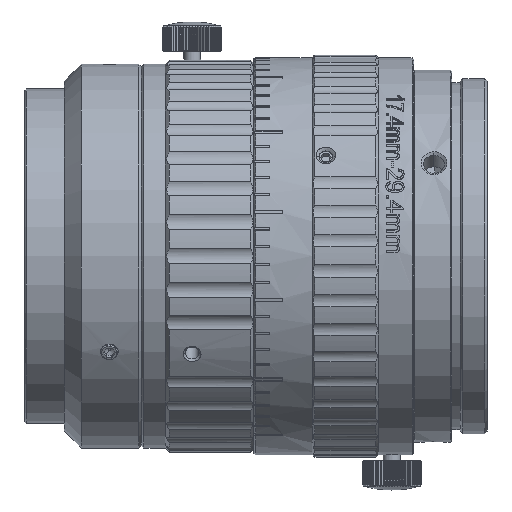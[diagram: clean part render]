
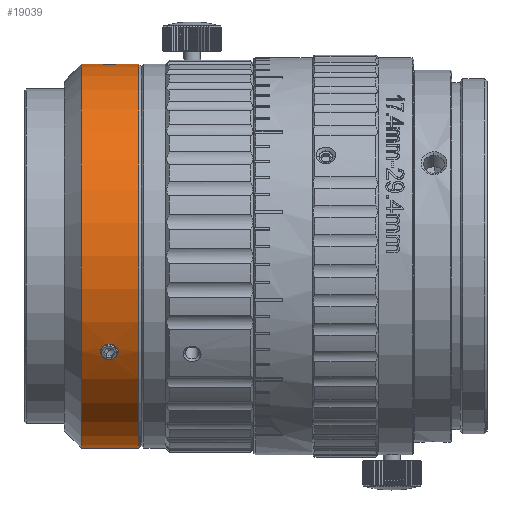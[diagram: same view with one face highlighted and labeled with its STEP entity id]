
A CAD part, top view. The second image highlights one B-rep face of the part: STEP entity #19039.
In plain terms, the highlighted cylindrical face has radius 22.7 mm (diameter 45.4 mm), a partial arc.
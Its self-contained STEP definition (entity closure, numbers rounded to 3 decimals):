
#18450=CARTESIAN_POINT('',(-19.6,0.,0.));
#18451=DIRECTION('',(-1.,0.,0.));
#18452=DIRECTION('',(0.,-1.,0.));
#18453=AXIS2_PLACEMENT_3D('',#18450,#18451,#18452);
#18455=CARTESIAN_POINT('',(-19.6,0.,0.));
#18456=DIRECTION('',(-1.,0.,0.));
#18457=DIRECTION('',(0.,0.,1.));
#18458=AXIS2_PLACEMENT_3D('',#18455,#18456,#18457);
#18468=CARTESIAN_POINT('',(-24.15,22.7,0.));
#18469=CARTESIAN_POINT('',(-24.15,22.7,0.099));
#18470=CARTESIAN_POINT('',(-24.122,22.699,
0.289));
#18471=CARTESIAN_POINT('',(-23.998,22.694,
0.559));
#18472=CARTESIAN_POINT('',(-23.802,22.687,
0.782));
#18473=CARTESIAN_POINT('',(-23.548,22.68,
0.945));
#18474=CARTESIAN_POINT('',(-23.255,22.677,
1.03));
#18475=CARTESIAN_POINT('',(-22.949,22.677,
1.031));
#18476=CARTESIAN_POINT('',(-22.656,22.68,
0.946));
#18477=CARTESIAN_POINT('',(-22.401,22.687,
0.784));
#18478=CARTESIAN_POINT('',(-22.204,22.694,
0.561));
#18479=CARTESIAN_POINT('',(-22.078,22.699,
0.29));
#18480=CARTESIAN_POINT('',(-22.05,22.7,0.1));
#18481=CARTESIAN_POINT('',(-22.05,22.7,0.));
#18483=DIRECTION('',(1.,0.,0.));
#18484=VECTOR('',#18483,2.45);
#18485=CARTESIAN_POINT('',(-22.05,22.7,0.));
#18486=LINE('',#18485,#18484);
#18487=DIRECTION('',(-1.,0.,0.));
#18488=VECTOR('',#18487,6.8);
#18489=CARTESIAN_POINT('',(-19.6,-22.7,0.));
#18490=LINE('',#18489,#18488);
#18491=DIRECTION('',(1.,0.,0.));
#18492=VECTOR('',#18491,2.25);
#18493=CARTESIAN_POINT('',(-26.4,22.7,0.));
#18494=LINE('',#18493,#18492);
#18495=CARTESIAN_POINT('',(-22.05,-11.35,19.659));
#18496=CARTESIAN_POINT('',(-22.05,-11.263,19.709));
#18497=CARTESIAN_POINT('',(-22.079,-11.096,
19.804));
#18498=CARTESIAN_POINT('',(-22.2,-10.867,
19.931));
#18499=CARTESIAN_POINT('',(-22.396,-10.665,
20.039));
#18500=CARTESIAN_POINT('',(-22.668,-10.515,
20.118));
#18501=CARTESIAN_POINT('',(-22.964,-10.445,
20.154));
#18502=CARTESIAN_POINT('',(-23.262,-10.447,
20.153));
#18503=CARTESIAN_POINT('',(-23.566,-10.53,
20.11));
#18504=CARTESIAN_POINT('',(-23.806,-10.671,
20.036));
#18505=CARTESIAN_POINT('',(-23.997,-10.862,
19.933));
#18506=CARTESIAN_POINT('',(-24.119,-11.093,
19.806));
#18507=CARTESIAN_POINT('',(-24.15,-11.261,19.71));
#18508=CARTESIAN_POINT('',(-24.15,-11.35,19.659));
#18510=CARTESIAN_POINT('',(-24.15,-11.35,19.659));
#18511=CARTESIAN_POINT('',(-24.15,-11.436,19.609));
#18512=CARTESIAN_POINT('',(-24.122,-11.599,
19.513));
#18513=CARTESIAN_POINT('',(-23.999,-11.828,
19.376));
#18514=CARTESIAN_POINT('',(-23.811,-12.014,
19.261));
#18515=CARTESIAN_POINT('',(-23.559,-12.153,
19.173));
#18516=CARTESIAN_POINT('',(-23.272,-12.228,
19.125));
#18517=CARTESIAN_POINT('',(-22.956,-12.232,
19.123));
#18518=CARTESIAN_POINT('',(-22.666,-12.163,
19.167));
#18519=CARTESIAN_POINT('',(-22.408,-12.028,
19.252));
#18520=CARTESIAN_POINT('',(-22.204,-11.835,
19.371));
#18521=CARTESIAN_POINT('',(-22.076,-11.595,
19.516));
#18522=CARTESIAN_POINT('',(-22.05,-11.434,19.61));
#18523=CARTESIAN_POINT('',(-22.05,-11.35,19.659));
#18606=CARTESIAN_POINT('',(-26.4,0.,0.));
#18607=DIRECTION('',(1.,0.,0.));
#18608=DIRECTION('',(0.,1.,0.));
#18609=AXIS2_PLACEMENT_3D('',#18606,#18607,#18608);
#18611=CARTESIAN_POINT('',(-26.4,0.,0.));
#18612=DIRECTION('',(1.,0.,0.));
#18613=DIRECTION('',(0.,0.,1.));
#18614=AXIS2_PLACEMENT_3D('',#18611,#18612,#18613);
#18864=CARTESIAN_POINT('',(-19.6,0.,22.7));
#18865=CARTESIAN_POINT('',(-19.6,22.7,0.));
#18866=VERTEX_POINT('',#18864);
#18867=VERTEX_POINT('',#18865);
#18868=CARTESIAN_POINT('',(-19.6,-22.7,0.));
#18869=VERTEX_POINT('',#18868);
#18870=VERTEX_POINT('',#18468);
#18871=VERTEX_POINT('',#18481);
#18872=CARTESIAN_POINT('',(-26.4,-22.7,0.));
#18873=VERTEX_POINT('',#18872);
#18874=CARTESIAN_POINT('',(-26.4,22.7,0.));
#18875=CARTESIAN_POINT('',(-26.4,0.,22.7));
#18876=VERTEX_POINT('',#18874);
#18877=VERTEX_POINT('',#18875);
#18878=VERTEX_POINT('',#18495);
#18879=VERTEX_POINT('',#18508);
#19012=CARTESIAN_POINT('',(-26.536,0.,0.));
#19013=DIRECTION('',(1.,0.,0.));
#19014=DIRECTION('',(0.,-1.,0.));
#19015=AXIS2_PLACEMENT_3D('',#19012,#19013,#19014);
#19016=CYLINDRICAL_SURFACE('',#19015,22.7);
#19018=ORIENTED_EDGE('',*,*,#19017,.T.);
#19020=ORIENTED_EDGE('',*,*,#19019,.T.);
#19021=ORIENTED_EDGE('',*,*,#19001,.F.);
#19022=ORIENTED_EDGE('',*,*,#18999,.F.);
#19024=ORIENTED_EDGE('',*,*,#19023,.T.);
#19026=ORIENTED_EDGE('',*,*,#19025,.F.);
#19028=ORIENTED_EDGE('',*,*,#19027,.F.);
#19030=ORIENTED_EDGE('',*,*,#19029,.T.);
#19031=EDGE_LOOP('',(#19018,#19020,#19021,#19022,#19024,#19026,#19028,#19030));
#19032=FACE_OUTER_BOUND('',#19031,.F.);
#19034=ORIENTED_EDGE('',*,*,#19033,.T.);
#19036=ORIENTED_EDGE('',*,*,#19035,.T.);
#19037=EDGE_LOOP('',(#19034,#19036));
#19038=FACE_BOUND('',#19037,.F.);
#18454=CIRCLE('',#18453,22.7);
#18459=CIRCLE('',#18458,22.7);
#18482=B_SPLINE_CURVE_WITH_KNOTS('',3,(#18468,#18469,#18470,#18471,#18472,
#18473,#18474,#18475,#18476,#18477,#18478,#18479,#18480,#18481),.UNSPECIFIED.,
.F.,.F.,(4,1,1,1,1,1,1,1,1,1,1,4),(0.,0.091,0.182,
0.273,0.364,0.455,0.545,
0.636,0.727,0.818,0.909,1.),
.UNSPECIFIED.);
#18509=B_SPLINE_CURVE_WITH_KNOTS('',3,(#18495,#18496,#18497,#18498,#18499,
#18500,#18501,#18502,#18503,#18504,#18505,#18506,#18507,#18508),.UNSPECIFIED.,
.F.,.F.,(4,1,1,1,1,1,1,1,1,1,1,4),(0.,0.091,0.182,
0.273,0.364,0.455,0.545,
0.636,0.727,0.818,0.909,1.),
.UNSPECIFIED.);
#18524=B_SPLINE_CURVE_WITH_KNOTS('',3,(#18510,#18511,#18512,#18513,#18514,
#18515,#18516,#18517,#18518,#18519,#18520,#18521,#18522,#18523),.UNSPECIFIED.,
.F.,.F.,(4,1,1,1,1,1,1,1,1,1,1,4),(0.,0.091,0.182,
0.273,0.364,0.455,0.545,
0.636,0.727,0.818,0.909,1.),
.UNSPECIFIED.);
#18610=CIRCLE('',#18609,22.7);
#18615=CIRCLE('',#18614,22.7);
#18999=EDGE_CURVE('',#18869,#18866,#18454,.T.);
#19001=EDGE_CURVE('',#18866,#18867,#18459,.T.);
#19017=EDGE_CURVE('',#18870,#18871,#18482,.T.);
#19019=EDGE_CURVE('',#18871,#18867,#18486,.T.);
#19023=EDGE_CURVE('',#18869,#18873,#18490,.T.);
#19025=EDGE_CURVE('',#18877,#18873,#18615,.T.);
#19027=EDGE_CURVE('',#18876,#18877,#18610,.T.);
#19029=EDGE_CURVE('',#18876,#18870,#18494,.T.);
#19033=EDGE_CURVE('',#18878,#18879,#18509,.T.);
#19035=EDGE_CURVE('',#18879,#18878,#18524,.T.);
#19039=ADVANCED_FACE('',(#19032,#19038),#19016,.T.);
